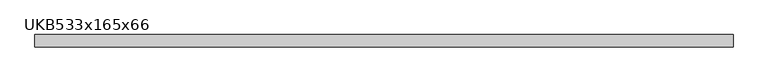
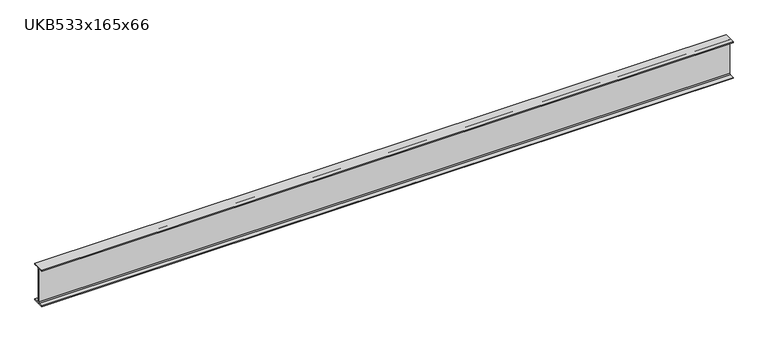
"""IFC4 building model written with IfcOpenShell, lengths in millimetres: beam geometry, UKB-UK Beams : UKB533x165x66."""

from ifc_helpers import new_model, si_unit, point, frame, frame_2d, origin, place, context, project, spatial, polyline, circle_curve, trimmed, segment, composite_curve, outline, extrude, source, transform, mapped, element, save


def ukb533x165x66_0dd4db16(model_context):
    return source(origin(), model_context, "Body", "SweptSolid", [
        extrude(outline(composite_curve([segment(polyline([(82.55, -250.95), (82.55, -262.35), (-82.55, -262.35), (-82.55, -250.95), (-17.15, -250.95)]), True, "CONTINUOUS"), segment(trimmed(circle_curve(frame_2d((-17.15, -238.25)), 12.7), [point((-17.15, -250.95))], [point((-4.45, -238.25))], True, "CARTESIAN"), True, "CONTINUOUS"), segment(polyline([(-4.45, -238.25), (-4.45, 238.25)]), True, "CONTINUOUS"), segment(trimmed(circle_curve(frame_2d((-17.15, 238.25)), 12.7), [point((-4.45, 238.25))], [point((-17.15, 250.95))], True, "CARTESIAN"), True, "CONTINUOUS"), segment(polyline([(-17.15, 250.95), (-82.55, 250.95), (-82.55, 262.35), (82.55, 262.35), (82.55, 250.95), (17.15, 250.95)]), True, "CONTINUOUS"), segment(trimmed(circle_curve(frame_2d((17.15, 238.25)), 12.7), [point((17.15, 250.95))], [point((4.45, 238.25))], True, "CARTESIAN"), True, "CONTINUOUS"), segment(polyline([(4.45, 238.25), (4.45, -238.25)]), True, "CONTINUOUS"), segment(trimmed(circle_curve(frame_2d((17.15, -238.25)), 12.7), [point((4.45, -238.25))], [point((17.15, -250.95))], True, "CARTESIAN"), True, "CONTINUOUS"), segment(polyline([(17.15, -250.95), (82.55, -250.95)]), True, "CONTINUOUS")], self_intersect=False)), frame((-4705.5, 0.0, 0.0), z_axis=(1.0, 0.0, 0.0), x_axis=(0.0, 1.0, 0.0)), (0.0, 0.0, 1.0), 9411.0),
    ])


if __name__ == "__main__":
    model = new_model("IFC4")
    model_context = context("Model", 3, world=origin())
    ifc_project = project(units=[si_unit("LENGTHUNIT", "METRE", prefix="MILLI")], contexts=[model_context])
    site = spatial("IfcSite", under=ifc_project)
    building = spatial("IfcBuilding", under=site)
    placement = place(None, origin())
    ukb533x165x66_shape = ukb533x165x66_0dd4db16(model_context)
    element("IfcBeam", 1, ObjectType="UKB-UK Beams : UKB533x165x66", at=placement, inside=building, context=model_context, shape_type="MappedRepresentation", body=[
        mapped(ukb533x165x66_shape, transform((0.0, 0.0, 0.0), x_axis=(1.0, 0.0, 0.0), y_axis=(0.0, 1.0, 0.0), z_axis=(0.0, 0.0, 1.0))),
    ])
    save(model, "model.ifc")
